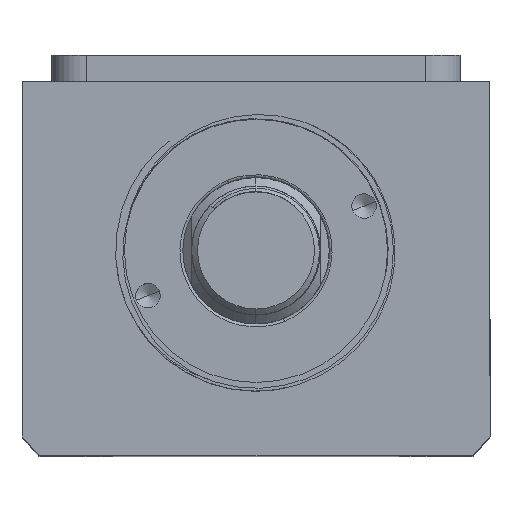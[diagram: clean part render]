
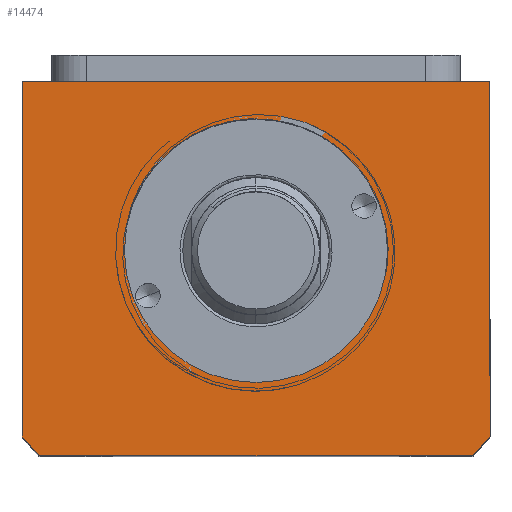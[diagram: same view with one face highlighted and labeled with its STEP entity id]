
A CAD part, top view. The second image highlights one B-rep face of the part: STEP entity #14474.
In plain terms, the highlighted planar face has unit normal (0, 0, 1).
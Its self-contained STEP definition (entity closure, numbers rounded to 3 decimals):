
#685 = VECTOR ( 'NONE', #5547, 1000. ) ;
#781 = LINE ( 'NONE', #13376, #3962 ) ;
#1162 = EDGE_CURVE ( 'NONE', #6640, #16982, #10857, .T. ) ;
#1269 = CARTESIAN_POINT ( 'NONE',  ( -37.094, -75.507, 115. ) ) ;
#1478 = VERTEX_POINT ( 'NONE', #14079 ) ;
#1925 = VECTOR ( 'NONE', #7927, 1000. ) ;
#2000 = AXIS2_PLACEMENT_3D ( 'NONE', #7352, #16877, #8734 ) ;
#2298 = EDGE_CURVE ( 'NONE', #13255, #4258, #4857, .T. ) ;
#2391 = EDGE_LOOP ( 'NONE', ( #15790, #9814 ) ) ;
#2516 = DIRECTION ( 'NONE',  ( 0., 0., 1. ) ) ;
#3238 = CARTESIAN_POINT ( 'NONE',  ( 0., -40.507, 115. ) ) ;
#3296 = CARTESIAN_POINT ( 'NONE',  ( -40., -11.507, 115. ) ) ;
#3527 = DIRECTION ( 'NONE',  ( 0., 0., 1. ) ) ;
#3962 = VECTOR ( 'NONE', #5207, 1000. ) ;
#4058 = EDGE_LOOP ( 'NONE', ( #4308, #5171, #4265, #5546, #17226, #11292 ) ) ;
#4258 = VERTEX_POINT ( 'NONE', #14784 ) ;
#4265 = ORIENTED_EDGE ( 'NONE', *, *, #13567, .T. ) ;
#4308 = ORIENTED_EDGE ( 'NONE', *, *, #8995, .T. ) ;
#4369 = CARTESIAN_POINT ( 'NONE',  ( 22.5, -40.507, 115. ) ) ;
#4568 = EDGE_CURVE ( 'NONE', #11074, #1478, #16700, .T. ) ;
#4604 = DIRECTION ( 'NONE',  ( -1., 0., 0. ) ) ;
#4606 = DIRECTION ( 'NONE',  ( 1., 0., 0. ) ) ;
#4857 = CIRCLE ( 'NONE', #9978, 22.5 ) ;
#5171 = ORIENTED_EDGE ( 'NONE', *, *, #7033, .T. ) ;
#5207 = DIRECTION ( 'NONE',  ( 1., 0., 0. ) ) ;
#5546 = ORIENTED_EDGE ( 'NONE', *, *, #4568, .T. ) ;
#5547 = DIRECTION ( 'NONE',  ( 0., -1., 0. ) ) ;
#5711 = VECTOR ( 'NONE', #4604, 1000. ) ;
#6449 = EDGE_CURVE ( 'NONE', #4258, #13255, #10226, .T. ) ;
#6640 = VERTEX_POINT ( 'NONE', #16052 ) ;
#6649 = PLANE ( 'NONE',  #7178 ) ;
#6895 = CARTESIAN_POINT ( 'NONE',  ( -40., -11.507, 115. ) ) ;
#7033 = EDGE_CURVE ( 'NONE', #12622, #8810, #8726, .T. ) ;
#7034 = CARTESIAN_POINT ( 'NONE',  ( -40., -11.507, 115. ) ) ;
#7178 = AXIS2_PLACEMENT_3D ( 'NONE', #10556, #7989, #17506 ) ;
#7352 = CARTESIAN_POINT ( 'NONE',  ( 0., -40.507, 115. ) ) ;
#7927 = DIRECTION ( 'NONE',  ( 0., 1., 0. ) ) ;
#7989 = DIRECTION ( 'NONE',  ( 0., 0., 1. ) ) ;
#8726 = CIRCLE ( 'NONE', #2000, 51. ) ;
#8734 = DIRECTION ( 'NONE',  ( 1., 0., 0. ) ) ;
#8810 = VERTEX_POINT ( 'NONE', #1269 ) ;
#8995 = EDGE_CURVE ( 'NONE', #16982, #12622, #15559, .T. ) ;
#9196 = AXIS2_PLACEMENT_3D ( 'NONE', #11674, #3527, #13076 ) ;
#9814 = ORIENTED_EDGE ( 'NONE', *, *, #6449, .F. ) ;
#9978 = AXIS2_PLACEMENT_3D ( 'NONE', #10630, #2516, #12037 ) ;
#10226 = CIRCLE ( 'NONE', #9196, 22.5 ) ;
#10556 = CARTESIAN_POINT ( 'NONE',  ( 0., 0., 115. ) ) ;
#10630 = CARTESIAN_POINT ( 'NONE',  ( 0., -40.507, 115. ) ) ;
#10857 = LINE ( 'NONE', #3296, #5711 ) ;
#10890 = EDGE_CURVE ( 'NONE', #1478, #6640, #12790, .T. ) ;
#10894 = AXIS2_PLACEMENT_3D ( 'NONE', #3238, #12768, #4606 ) ;
#11074 = VERTEX_POINT ( 'NONE', #12039 ) ;
#11292 = ORIENTED_EDGE ( 'NONE', *, *, #1162, .T. ) ;
#11674 = CARTESIAN_POINT ( 'NONE',  ( 0., -40.507, 115. ) ) ;
#12037 = DIRECTION ( 'NONE',  ( 1., 0., 0. ) ) ;
#12039 = CARTESIAN_POINT ( 'NONE',  ( 37.094, -75.507, 115. ) ) ;
#12471 = FACE_BOUND ( 'NONE', #2391, .T. ) ;
#12622 = VERTEX_POINT ( 'NONE', #14789 ) ;
#12768 = DIRECTION ( 'NONE',  ( 0., 0., 1. ) ) ;
#12790 = LINE ( 'NONE', #16090, #1925 ) ;
#13076 = DIRECTION ( 'NONE',  ( 1., 0., 0. ) ) ;
#13255 = VERTEX_POINT ( 'NONE', #4369 ) ;
#13376 = CARTESIAN_POINT ( 'NONE',  ( -40., -75.507, 115. ) ) ;
#13567 = EDGE_CURVE ( 'NONE', #8810, #11074, #781, .T. ) ;
#14079 = CARTESIAN_POINT ( 'NONE',  ( 40., -72.145, 115. ) ) ;
#14474 = ADVANCED_FACE ( 'NONE', ( #12471, #15638 ), #6649, .T. ) ;
#14784 = CARTESIAN_POINT ( 'NONE',  ( -22.5, -40.507, 115. ) ) ;
#14789 = CARTESIAN_POINT ( 'NONE',  ( -40., -72.145, 115. ) ) ;
#15559 = LINE ( 'NONE', #6895, #685 ) ;
#15638 = FACE_OUTER_BOUND ( 'NONE', #4058, .T. ) ;
#15790 = ORIENTED_EDGE ( 'NONE', *, *, #2298, .F. ) ;
#16052 = CARTESIAN_POINT ( 'NONE',  ( 40., -11.507, 115. ) ) ;
#16090 = CARTESIAN_POINT ( 'NONE',  ( 40., -11.507, 115. ) ) ;
#16700 = CIRCLE ( 'NONE', #10894, 51. ) ;
#16877 = DIRECTION ( 'NONE',  ( 0., 0., 1. ) ) ;
#16982 = VERTEX_POINT ( 'NONE', #7034 ) ;
#17226 = ORIENTED_EDGE ( 'NONE', *, *, #10890, .T. ) ;
#17506 = DIRECTION ( 'NONE',  ( 1., 0., 0. ) ) ;
